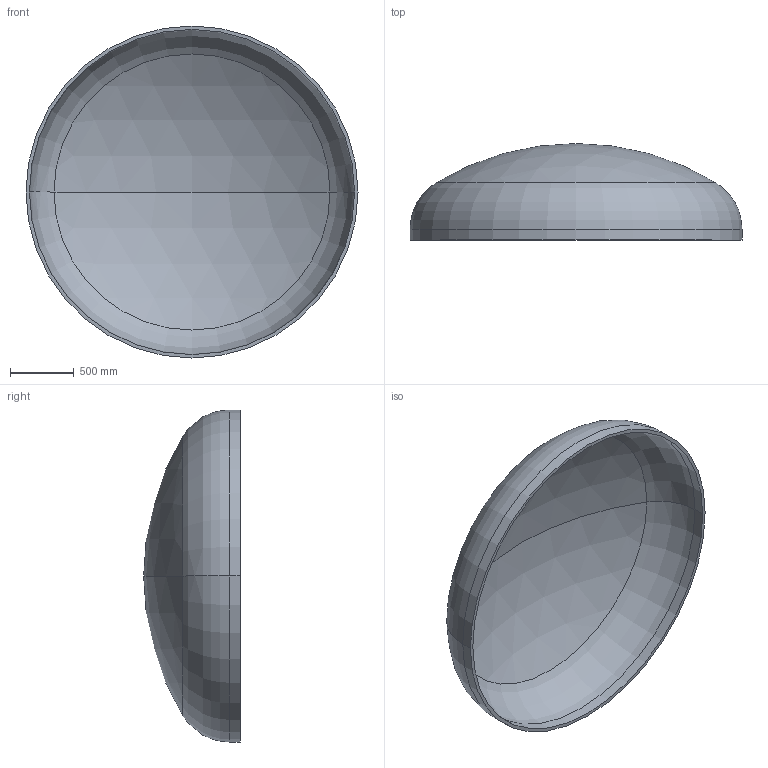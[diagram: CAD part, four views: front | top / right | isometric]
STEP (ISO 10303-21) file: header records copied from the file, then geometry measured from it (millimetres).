
FILE_DESCRIPTION (( 'STEP AP203' ), '1' );
FILE_NAME ('DIN 28013 Korbbogenform_-_Boden DIN 28013 - 2600 x 85 - I - s=27.step', '2016-07-01T16:03:06', ( '' ), ( '' ), 'SwSTEP 2.0', 'SolidWorks 2013', '' );
FILE_SCHEMA (( 'CONFIG_CONTROL_DESIGN' ));
Length unit declared in the file: millimetre
Products named in the file (1): DIN 28013 Korbbogenform_-_Boden DIN 28013 - 2600 x 85 - I - s=27
Bounding box: 2600 x 756.64 x 2600 mm (x, y, z)
Volume: 214343765.5 mm3; surface area: 16097086.6 mm2
Topology: 1 solids, 1 shells, 13 faces, 24 edges, 14 vertices
Faces by surface type: torus 4, cylinder 4, sphere 4, plane 1
Entity records: 407 total; most frequent: DIRECTION 72, CARTESIAN_POINT 52, ORIENTED_EDGE 48, AXIS2_PLACEMENT_3D 34, EDGE_CURVE 24, CIRCLE 20, EDGE_LOOP 14, VERTEX_POINT 14
